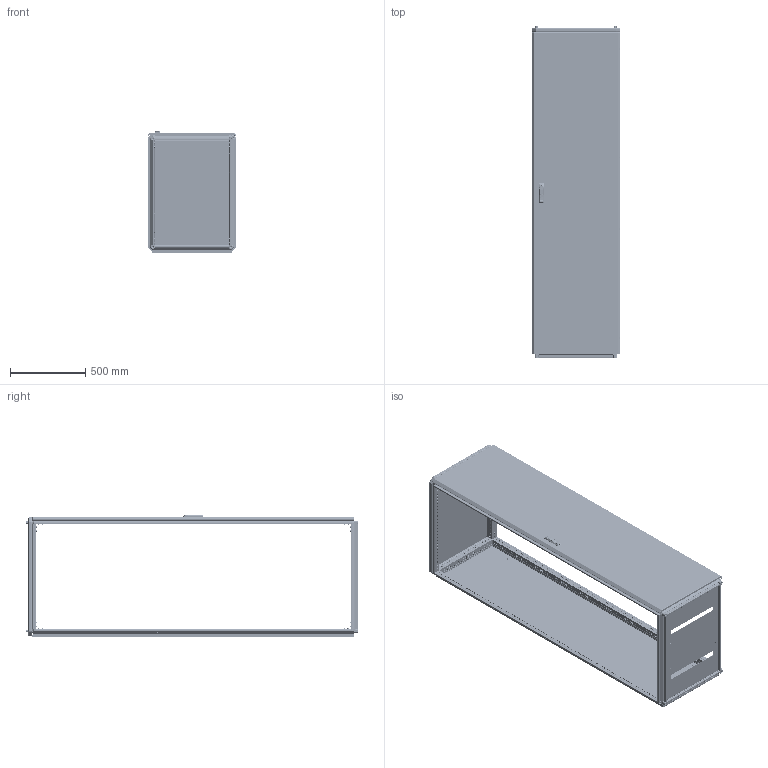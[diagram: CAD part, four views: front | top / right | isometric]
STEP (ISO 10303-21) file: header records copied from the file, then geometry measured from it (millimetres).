
FILE_DESCRIPTION (( 'STEP AP203' ), '1' );
FILE_NAME ('MA1.000.060822.10.00 AleSta2268 Øêàô AleSta 600õ800õ2200.STEP', '2024-08-23T08:47:40', ( '' ), ( '' ), 'SwSTEP 2.0', 'SolidWorks 2021', '' );
FILE_SCHEMA (( 'CONFIG_CONTROL_DESIGN' ));
Length unit declared in the file: millimetre
Products named in the file (50): òÿãà_lg001-2.STEP_‚=2200; Âèíò ðåçüáîâûäàâëèâàþùèé Ì6õ12 DIN 7500E_Œ6å10; MA1.200.060620.31.04 ðèãåëü çàìêà äâåðè; Âèíò_ðåçüáîâûäàâëèâàþùèé_Ì5õ12_DIN 7500E_00; ﾇﾀﾊﾋﾅﾏﾊﾀ ﾃﾀﾅﾗﾍﾀﾟ ﾘﾅﾑﾒﾈﾃﾐﾀﾍﾍﾀﾟ ﾑ ﾓﾌﾅﾍﾜﾘﾅﾍﾍﾛﾌ ﾁﾎﾐﾒﾎﾌ M4 X 11 (0.5-2.5 ﾌﾌ) HEX U-S ﾖﾈﾍﾊ; MS463-2-3(1); MA1.102.060620.00.01 Ïðîôèëü âåðòèêàëüíûé ñâàðíîé_05 L=2098 (‚=2200); MA1.200.060620.31.03 Ðåéêà íà äâåðü ãîðèçîíòàëüíàÿ Ø = 600_˜ = 600; Óïëîòíèòåëü ïàíåëè íèæíåé_600å800; Øïèëüêà Ì6õ12_˜¯¨«ìª  Œ6å16; Óïëîòíèòåëü ïàíåëè íèæíåé_‚=2200; MA1.101.060620.00.02 Ïðîôèëü ïîïåðå÷íûé ñâàðíîé_02 L=698 (˜=800) ; Øàéáà ñòîïîðíàÿ ñ íàðóæíûìè çóáöàìè SCHNORR, òèï VS öèíêîâûå õëîïüÿ Ì6 O6,4 ART 88121_Œ6; MA1.100.060620.00.01 Ñîåäèíèòåëü óãëîâîé_00; MA1.200.060620.10.00 AleSta-PR206  Ïàíåëü çàäíÿÿ, äëÿ øêàôîâ ALESTA, 2000 x 600_2200å600; MA1.000.060822.10.00 AleSta2268 Øêàô AleSta 600õ800õ2200; Ïåòëÿ íà äâåðü ï-îáðàçíàÿ; Ãàéêà ñàìîêîíòðÿùàÿñÿ ñ íåéëîíîâîé âñòàâêîé Ì6 DIN 985, êëàññ ïðî÷íîñòè 8, îöèíêîâàííàÿ ñòàëü_Œ5; MA1.102.060620.00.00 AleSta-VG2000 Ñòîéêè âåðòèêàëüíûå, Â=2000ìì  (4øò)_ 600å800; MA1.101.060620.10.00 Êðûøà 600x600_600å800; MA1.101.060620.10.01 Ïîëîòíî êðûøè 600õ600_600å800; MA1.200.060620.31.02 Ðåéêà íà äâåðü âåðòèêàëüíàÿ Â = 2000_‚ = 2200; MA1.200.060620.11.00 Ïàíåëü çàäíÿÿ, äëÿ øêàôîâ AleSta, 2000x600_2200å600; MA1.101.060620.00.00 AleSta-RB66 Êîìïëåêò êðûøà è îñíîâàíèå_ 600å800; Øïèëüêà Ì6õ12_˜¯¨«ìª  Œ6å20; MA1.101.060620.20.01 Ïîëîòíî íèæíåé ïàíåëè 600õ600_600å800; MA1.200.060620.31.00 Äâåðü ñïëîøíàÿ äëÿ øêàôîâ ALESTA ÂõØ 2000õ600_2200å600; Âèíò ñ âí. øåñòèãðàííèêîì M12 DIN912_•30; 7380-2 ISO Âèíòû ñ ïîëóêðóãëîé ãîëîâêîé ñ ôëàíöåì ñ âíóòðåííèì øåñòèãðàííèêîì Ì4õ10; Øïèëüêà Ì6õ12_˜¯¨«ìª  Œ6å12; Ïðîáêà ïëàñòèêîâàÿ óíèâåðñàëüíàÿ ïîä îòâåðñòèå 4,5 ìì, ñåðèÿ ST, öâåò áåñöâåòíûé – ST4,5; MA1.200.060620.31.05 Óãëîâîé óïîð äâåðíîé òÿãè; MA1.200.060620.11.01 Ïîëîòíî çàäíåé ïàíåëè 2000õ600_2200å600; êðåïëåíèå_êðóãëîé_òÿãè_RG1020-1.stp; Îñü ïåòëè 4õ52_‚¨­â A.M4x0,5x40 ƒŽ‘’ 11644-75; ﾘ琺矜 01.019 ﾃﾎﾑﾒ11371-78_12; ﾘ琺矜 65ﾃ 019 ﾃﾎﾑﾒ 6402-70_12; MA1.200.060620.30.00 AleSta-D20M600 Äâåðü ñïëîøíàÿ äëÿ øêàôîâ ALESTA ÂõØ 2000õ600_2200å600; MA1.200.060620.31.01 Ïîëîòíî äâåðè ñïëîøíîé 2000õ600_2200å600; Íàâåñêà íà êîðïóñ ïîä êëåïêó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
Assembly tree (337 placements, depth 4):
  MA1.000.060822.10.00 AleSta2268 Øêàô AleSta 600õ800õ2200
    MA1.101.060620.00.00 AleSta-RB66 Êîìïëåêò êðûøà è îñíîâàíèå_ 600å800
      MA1.101.060620.00.02 Ïðîôèëü ïîïåðå÷íûé ñâàðíîé_02 L=698 (˜=800)   x4
      MA1.101.060620.00.02 Ïðîôèëü ïîïåðå÷íûé ñâàðíîé_01 L=498 (˜=600)  x4
      MA1.101.060620.10.00 Êðûøà 600x600_600å800
        MA1.101.060620.10.01 Ïîëîòíî êðûøè 600õ600_600å800
        Øïèëüêà Ì6õ12_˜¯¨«ìª  Œ6å12  x4
        Óïëîòíèòåëü ïàíåëè íèæíåé_600å800
      MA1.101.060620.20.00 Íèæíÿÿ ïàíåëü 600õ600_600å800
        MA1.101.060620.20.01 Ïîëîòíî íèæíåé ïàíåëè 600õ600_600å800
        ﾇﾀﾊﾋﾅﾏﾊﾀ ﾃﾀﾅﾗﾍﾀﾟ ﾘﾅﾑﾒﾈﾃﾐﾀﾍﾍﾀﾟ ﾑ ﾓﾌﾅﾍﾜﾘﾅﾍﾍﾛﾌ ﾁﾎﾐﾒﾎﾌ M4 X 11 (0.5-2.5 ﾌﾌ) HEX U-S ﾖﾈﾍﾊ  x4
        MA1.101.060620.20.02 Çàêðûòèå íèæíåé ïàíåëè 600õ600_600x800  x2
        7380-2 ISO Âèíòû ñ ïîëóêðóãëîé ãîëîâêîé ñ ôëàíöåì ñ âíóòðåííèì øåñòèãðàííèêîì Ì4õ10  x4
      Âèíò_ðåçüáîâûäàâëèâàþùèé_Ì5õ12_DIN 7500E_Œ5å12  x8
      MA1.100.060620.00.01 Ñîåäèíèòåëü óãëîâîé_00  x8
      Âèíò ñ âí. øåñòèãðàííèêîì M12 DIN912_•30  x4
      Âèíò ðåçüáîâûäàâëèâàþùèé Ì6õ12 DIN 7500E_Œ6å10  x96
      ﾘ琺矜 01.019 ﾃﾎﾑﾒ11371-78_12  x4
      ﾘ琺矜 65ﾃ 019 ﾃﾎﾑﾒ 6402-70_12  x4
      Øàéáà ñòîïîðíàÿ ñ íàðóæíûìè çóáöàìè SCHNORR, òèï VS öèíêîâûå õëîïüÿ Ì6 O6,4 ART 88121_Œ6  x80
    MA1.102.060620.00.00 AleSta-VG2000 Ñòîéêè âåðòèêàëüíûå, Â=2000ìì  (4øò)_ 600å800
      MA1.102.060620.00.01 Ïðîôèëü âåðòèêàëüíûé ñâàðíîé_05 L=2098 (‚=2200)  x4
    MA1.200.060620.10.00 AleSta-PR206  Ïàíåëü çàäíÿÿ, äëÿ øêàôîâ ALESTA, 2000 x 600_2200å600
      MA1.200.060620.11.00 Ïàíåëü çàäíÿÿ, äëÿ øêàôîâ AleSta, 2000x600_2200å600
        MA1.200.060620.11.01 Ïîëîòíî çàäíåé ïàíåëè 2000õ600_2200å600
        Óïëîòíèòåëü ïàíåëè íèæíåé_‚=2200
        Øïèëüêà Ì6õ12_˜¯¨«ìª  Œ6å12  x4
      Âèíò ñàìîíàðåçàþùèé ñ ïîòàéíîé ãîëîâêîé Ì5x14 DIN 7500 M TORX, êëàññ ïðî÷íîñòè 8.8, îöèíêîâàííàÿ ñòàëü_Œ5å14  x8
    MA1.200.060620.30.00 AleSta-D20M600 Äâåðü ñïëîøíàÿ äëÿ øêàôîâ ALESTA ÂõØ 2000õ600_2200å600
      MA1.200.060620.31.00 Äâåðü ñïëîøíàÿ äëÿ øêàôîâ ALESTA ÂõØ 2000õ600_2200å600
        MA1.200.060620.31.01 Ïîëîòíî äâåðè ñïëîøíîé 2000õ600_2200å600
        Óïëîòíèòåëü ïàíåëè íèæíåé_‚=2200
        Øïèëüêà Ì6õ12_˜¯¨«ìª  Œ6å20  x16
        Øïèëüêà Ì6õ12_˜¯¨«ìª  Œ6å16  x4
        Ïåòëÿ íà äâåðü ï-îáðàçíàÿ  x4
      MA1.200.060620.31.03 Ðåéêà íà äâåðü ãîðèçîíòàëüíàÿ Ø = 600_˜ = 600  x2
      諘蜱齁罻 022 瀁錒瀔隮  x4
      MA1.200.060620.31.02 Ðåéêà íà äâåðü âåðòèêàëüíàÿ Â = 2000_‚ = 2200  x2
      äåðæàòåëü_êðóãëîé_òÿãèRG002-RG1010-2-i-RG1010-3-.stp  x2
      òÿãà_lg001-2.STEP_‚=2200  x2
      êðåïëåíèå_êðóãëîé_òÿãè_RG1020-1.stp  x2
      MS463-2-3(1)
      Ãàéêà ñàìîêîíòðÿùàÿñÿ ñ íåéëîíîâîé âñòàâêîé Ì6 DIN 985, êëàññ ïðî÷íîñòè 8, îöèíêîâàííàÿ ñòàëü_Œ6  x16
      Ãàéêà ñàìîêîíòðÿùàÿñÿ ñ íåéëîíîâîé âñòàâêîé Ì6 DIN 985, êëàññ ïðî÷íîñòè 8, îöèíêîâàííàÿ ñòàëü_Œ5  x2
      Áîëò øåñòèãðàííûé Ì5õ12 DIN 933, êëàññ ïðî÷íîñòè 8.8, îöèíêîâàííàÿ ñòàëü  x2
      MA1.200.060620.31.04 ðèãåëü çàìêà äâåðè
      MA1.200.060620.31.05 Óãëîâîé óïîð äâåðíîé òÿãè  x2
      Âèíò_ðåçüáîâûäàâëèâàþùèé_Ì5õ12_DIN 7500E_00  x2
      Íàâåñêà íà êîðïóñ ïîä êëåïêó  x4
      Îñü ïåòëè 4õ52_‚¨­â A.M4x0,5x40 ƒŽ‘’ 11644-75  x4
      Âèíò ñàìîíàðåçàþùèé ñ ïîòàéíîé ãîëîâêîé Ì5x14 DIN 7500 M TORX, êëàññ ïðî÷íîñòè 8.8, îöèíêîâàííàÿ ñòàëü_Œ5å12  x8
  Ïðîáêà ïëàñòèêîâàÿ óíèâåðñàëüíàÿ ïîä îòâåðñòèå 4,5 ìì, ñåðèÿ ST, öâåò áåñöâåòíûé – ST4,5
Bounding box: 592 x 2210.9 x 816.8 mm (x, y, z)
Volume: 10198990.2 mm3; surface area: 13161279.2 mm2
Topology: 364 solids, 378 shells, 24619 faces, 63894 edges, 40104 vertices
Faces by surface type: plane 14761, cylinder 7165, bspline 921, cone 845, torus 829, sphere 98
Entity records: 257208 total; most frequent: CARTESIAN_POINT 81289, ORIENTED_EDGE 33746, DIRECTION 33168, EDGE_CURVE 16890, AXIS2_PLACEMENT_3D 11328, VERTEX_POINT 10557, LINE 10512, VECTOR 10512
